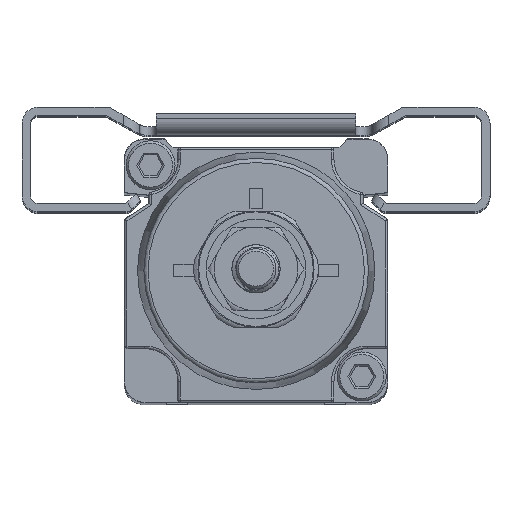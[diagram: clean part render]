
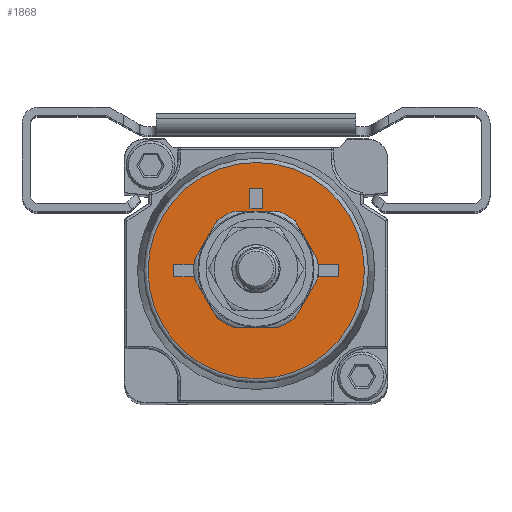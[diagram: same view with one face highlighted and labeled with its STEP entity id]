
A CAD part, top view. The second image highlights one B-rep face of the part: STEP entity #1868.
In plain terms, the highlighted planar face has unit normal (0, 0, 1).
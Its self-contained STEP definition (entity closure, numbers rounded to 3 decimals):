
#854=FACE_BOUND('',#4345,.T.);
#855=FACE_BOUND('',#4346,.T.);
#856=FACE_BOUND('',#4347,.T.);
#857=FACE_BOUND('',#4348,.T.);
#858=FACE_BOUND('',#4349,.T.);
#1175=PLANE('',#20434);
#1868=ADVANCED_FACE('',(#854,#855,#856,#857,#858),#1175,.T.);
#4345=EDGE_LOOP('',(#7050));
#4346=EDGE_LOOP('',(#7051,#7052,#7053,#7054));
#4347=EDGE_LOOP('',(#7055,#7056,#7057,#7058));
#4348=EDGE_LOOP('',(#7059,#7060,#7061,#7062));
#4349=EDGE_LOOP('',(#7063));
#5385=CIRCLE('',#20406,3.993);
#5396=CIRCLE('',#20432,13.037);
#7050=ORIENTED_EDGE('',*,*,#14099,.F.);
#7051=ORIENTED_EDGE('',*,*,#14109,.F.);
#7052=ORIENTED_EDGE('',*,*,#14112,.F.);
#7053=ORIENTED_EDGE('',*,*,#14115,.F.);
#7054=ORIENTED_EDGE('',*,*,#14117,.F.);
#7055=ORIENTED_EDGE('',*,*,#14140,.F.);
#7056=ORIENTED_EDGE('',*,*,#14141,.F.);
#7057=ORIENTED_EDGE('',*,*,#14142,.F.);
#7058=ORIENTED_EDGE('',*,*,#14143,.F.);
#7059=ORIENTED_EDGE('',*,*,#14128,.F.);
#7060=ORIENTED_EDGE('',*,*,#14132,.F.);
#7061=ORIENTED_EDGE('',*,*,#14134,.F.);
#7062=ORIENTED_EDGE('',*,*,#14136,.F.);
#7063=ORIENTED_EDGE('',*,*,#14139,.F.);
#12036=VERTEX_POINT('',#37455);
#12045=VERTEX_POINT('',#37477);
#12046=VERTEX_POINT('',#37479);
#12047=VERTEX_POINT('',#37483);
#12049=VERTEX_POINT('',#37489);
#12058=VERTEX_POINT('',#37515);
#12059=VERTEX_POINT('',#37517);
#12060=VERTEX_POINT('',#37522);
#12061=VERTEX_POINT('',#37526);
#12064=VERTEX_POINT('',#37538);
#12065=VERTEX_POINT('',#37541);
#12066=VERTEX_POINT('',#37542);
#12067=VERTEX_POINT('',#37544);
#12068=VERTEX_POINT('',#37546);
#14099=EDGE_CURVE('',#12036,#12036,#5385,.T.);
#14109=EDGE_CURVE('',#12045,#12046,#16813,.T.);
#14112=EDGE_CURVE('',#12047,#12045,#16816,.T.);
#14115=EDGE_CURVE('',#12049,#12047,#16819,.T.);
#14117=EDGE_CURVE('',#12046,#12049,#16821,.T.);
#14128=EDGE_CURVE('',#12058,#12059,#16828,.T.);
#14132=EDGE_CURVE('',#12060,#12058,#16832,.T.);
#14134=EDGE_CURVE('',#12061,#12060,#16834,.T.);
#14136=EDGE_CURVE('',#12059,#12061,#16836,.T.);
#14139=EDGE_CURVE('',#12064,#12064,#5396,.T.);
#14140=EDGE_CURVE('',#12065,#12066,#16837,.T.);
#14141=EDGE_CURVE('',#12067,#12065,#16838,.T.);
#14142=EDGE_CURVE('',#12068,#12067,#16839,.T.);
#14143=EDGE_CURVE('',#12066,#12068,#16840,.T.);
#16813=LINE('',#37478,#18636);
#16816=LINE('',#37484,#18639);
#16819=LINE('',#37490,#18642);
#16821=LINE('',#37493,#18644);
#16828=LINE('',#37516,#18651);
#16832=LINE('',#37523,#18655);
#16834=LINE('',#37527,#18657);
#16836=LINE('',#37530,#18659);
#16837=LINE('',#37540,#18660);
#16838=LINE('',#37543,#18661);
#16839=LINE('',#37545,#18662);
#16840=LINE('',#37547,#18663);
#18636=VECTOR('',#22894,1.);
#18639=VECTOR('',#22899,1.);
#18642=VECTOR('',#22904,1.);
#18644=VECTOR('',#22908,1.);
#18651=VECTOR('',#22929,1.);
#18655=VECTOR('',#22935,1.);
#18657=VECTOR('',#22939,1.);
#18659=VECTOR('',#22943,1.);
#18660=VECTOR('',#22956,1.);
#18661=VECTOR('',#22957,1.);
#18662=VECTOR('',#22958,1.);
#18663=VECTOR('',#22959,1.);
#20406=AXIS2_PLACEMENT_3D('',#37454,#22871,#22872);
#20432=AXIS2_PLACEMENT_3D('',#37537,#22952,#22953);
#20434=AXIS2_PLACEMENT_3D('',#37548,#22960,#22961);
#22871=DIRECTION('',(0.,0.,1.));
#22872=DIRECTION('',(1.,0.,0.));
#22894=DIRECTION('',(0.,-1.,0.));
#22899=DIRECTION('',(-1.,0.,0.));
#22904=DIRECTION('',(0.,1.,0.));
#22908=DIRECTION('',(1.,0.,0.));
#22929=DIRECTION('',(0.,1.,0.));
#22935=DIRECTION('',(1.,0.,0.));
#22939=DIRECTION('',(0.,-1.,0.));
#22943=DIRECTION('',(-1.,0.,0.));
#22952=DIRECTION('',(0.,0.,-1.));
#22953=DIRECTION('',(-1.,0.,0.));
#22956=DIRECTION('',(1.,0.,0.));
#22957=DIRECTION('',(0.,-1.,0.));
#22958=DIRECTION('',(-1.,0.,0.));
#22959=DIRECTION('',(0.,1.,0.));
#22960=DIRECTION('',(0.,0.,1.));
#22961=DIRECTION('',(1.,0.,0.));
#37454=CARTESIAN_POINT('',(250.023,-15.873,-133.036));
#37455=CARTESIAN_POINT('',(254.016,-15.873,-133.036));
#37477=CARTESIAN_POINT('',(249.274,-5.928,-133.036));
#37478=CARTESIAN_POINT('',(249.274,-5.928,-133.036));
#37479=CARTESIAN_POINT('',(249.274,-8.424,-133.036));
#37483=CARTESIAN_POINT('',(250.771,-5.928,-133.036));
#37484=CARTESIAN_POINT('',(250.771,-5.928,-133.036));
#37489=CARTESIAN_POINT('',(250.771,-8.424,-133.036));
#37490=CARTESIAN_POINT('',(250.771,-8.424,-133.036));
#37493=CARTESIAN_POINT('',(249.274,-8.424,-133.036));
#37515=CARTESIAN_POINT('',(259.967,-16.621,-133.036));
#37516=CARTESIAN_POINT('',(259.967,-16.621,-133.036));
#37517=CARTESIAN_POINT('',(259.967,-15.124,-133.036));
#37522=CARTESIAN_POINT('',(257.472,-16.621,-133.036));
#37523=CARTESIAN_POINT('',(257.472,-16.621,-133.036));
#37526=CARTESIAN_POINT('',(257.472,-15.124,-133.036));
#37527=CARTESIAN_POINT('',(257.472,-15.124,-133.036));
#37530=CARTESIAN_POINT('',(259.967,-15.124,-133.036));
#37537=CARTESIAN_POINT('',(250.023,-15.873,-133.036));
#37538=CARTESIAN_POINT('',(236.986,-15.873,-133.036));
#37540=CARTESIAN_POINT('',(240.078,-16.621,-133.036));
#37541=CARTESIAN_POINT('',(240.078,-16.621,-133.036));
#37542=CARTESIAN_POINT('',(242.574,-16.621,-133.036));
#37543=CARTESIAN_POINT('',(240.078,-15.124,-133.036));
#37544=CARTESIAN_POINT('',(240.078,-15.124,-133.036));
#37545=CARTESIAN_POINT('',(242.574,-15.124,-133.036));
#37546=CARTESIAN_POINT('',(242.574,-15.124,-133.036));
#37547=CARTESIAN_POINT('',(242.574,-16.621,-133.036));
#37548=CARTESIAN_POINT('',(250.023,-15.873,-133.036));
